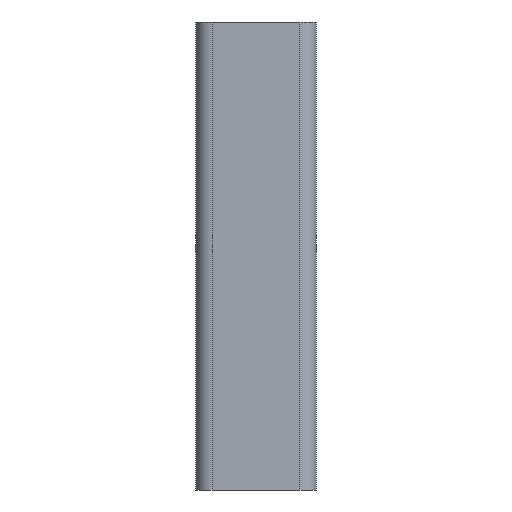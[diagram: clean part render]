
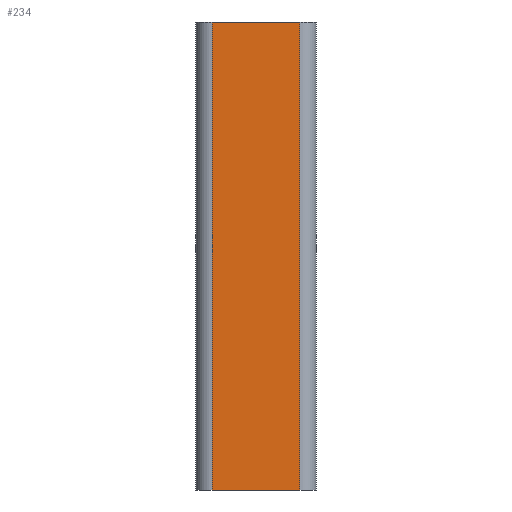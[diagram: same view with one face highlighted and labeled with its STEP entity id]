
A CAD part, front view. The second image highlights one B-rep face of the part: STEP entity #234.
In plain terms, the highlighted planar face has unit normal (0, -1, 0).
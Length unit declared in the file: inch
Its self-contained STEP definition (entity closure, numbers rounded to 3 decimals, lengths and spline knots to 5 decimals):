
#4 = VERTEX_POINT ( 'NONE', #23 ) ;
#12 = EDGE_CURVE ( 'NONE', #615, #617, #368, .T. ) ;
#23 = CARTESIAN_POINT ( 'NONE',  ( 0.37414, -0.51476, -3. ) ) ;
#25 = CARTESIAN_POINT ( 'NONE',  ( -0.37414, -0.51476, 1. ) ) ;
#31 = DIRECTION ( 'NONE',  ( 1., 0., 0. ) ) ;
#54 = CARTESIAN_POINT ( 'NONE',  ( -0.37414, -0.51476, -3. ) ) ;
#77 = CARTESIAN_POINT ( 'NONE',  ( -0.37414, -0.51476, 1. ) ) ;
#114 = VERTEX_POINT ( 'NONE', #54 ) ;
#144 = LINE ( 'NONE', #173, #145 ) ;
#145 = VECTOR ( 'NONE', #174, 39.37008 ) ;
#157 = LINE ( 'NONE', #190, #158 ) ;
#158 = VECTOR ( 'NONE', #191, 39.37008 ) ;
#173 = CARTESIAN_POINT ( 'NONE',  ( 0.37414, -0.51476, 3. ) ) ;
#174 = DIRECTION ( 'NONE',  ( 0., 0., -1. ) ) ;
#190 = CARTESIAN_POINT ( 'NONE',  ( -0.37414, -0.51476, 3. ) ) ;
#191 = DIRECTION ( 'NONE',  ( 0., 0., -1. ) ) ;
#199 = CARTESIAN_POINT ( 'NONE',  ( 0.37414, -0.51476, 1. ) ) ;
#234 = ADVANCED_FACE ( 'NONE', ( #257 ), #561, .F. ) ;
#257 = FACE_OUTER_BOUND ( 'NONE', #363, .T. ) ;
#264 = ORIENTED_EDGE ( 'NONE', *, *, #600, .T. ) ;
#277 = ORIENTED_EDGE ( 'NONE', *, *, #12, .F. ) ;
#292 = ORIENTED_EDGE ( 'NONE', *, *, #434, .T. ) ;
#301 = ORIENTED_EDGE ( 'NONE', *, *, #441, .F. ) ;
#321 = AXIS2_PLACEMENT_3D ( 'NONE', #565, #497, #498 ) ;
#363 = EDGE_LOOP ( 'NONE', ( #292, #301, #277, #264 ) ) ;
#368 = LINE ( 'NONE', #25, #370 ) ;
#370 = VECTOR ( 'NONE', #31, 39.37008 ) ;
#383 = VECTOR ( 'NONE', #411, 39.37008 ) ;
#410 = CARTESIAN_POINT ( 'NONE',  ( -0.37414, -0.51476, -3. ) ) ;
#411 = DIRECTION ( 'NONE',  ( 1., 0., 0. ) ) ;
#434 = EDGE_CURVE ( 'NONE', #114, #4, #591, .T. ) ;
#441 = EDGE_CURVE ( 'NONE', #617, #4, #144, .T. ) ;
#497 = DIRECTION ( 'NONE',  ( 0., 1., 0. ) ) ;
#498 = DIRECTION ( 'NONE',  ( -1., 0., 0. ) ) ;
#561 = PLANE ( 'NONE',  #321 ) ;
#565 = CARTESIAN_POINT ( 'NONE',  ( -0.37414, -0.51476, 3. ) ) ;
#591 = LINE ( 'NONE', #410, #383 ) ;
#600 = EDGE_CURVE ( 'NONE', #615, #114, #157, .T. ) ;
#615 = VERTEX_POINT ( 'NONE', #77 ) ;
#617 = VERTEX_POINT ( 'NONE', #199 ) ;
